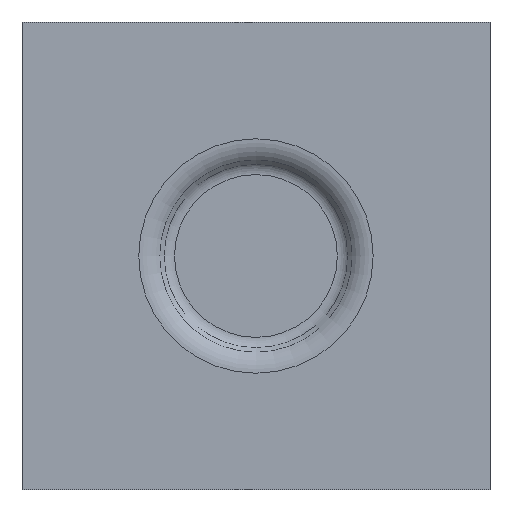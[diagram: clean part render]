
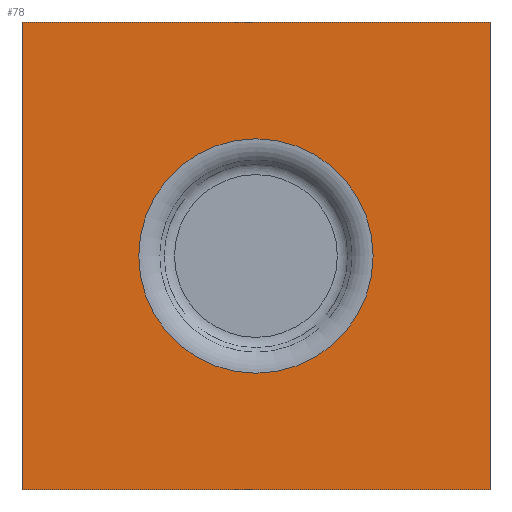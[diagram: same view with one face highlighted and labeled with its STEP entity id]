
A CAD part, top view. The second image highlights one B-rep face of the part: STEP entity #78.
In plain terms, the highlighted planar face has unit normal (0, 0, 1).
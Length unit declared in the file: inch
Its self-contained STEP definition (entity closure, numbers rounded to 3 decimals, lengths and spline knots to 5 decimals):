
#78=ADVANCED_FACE('',(#97,#98),#99,.F.);
#97=FACE_OUTER_BOUND('',#133,.T.);
#98=FACE_BOUND('',#134,.T.);
#99=PLANE('',#135);
#133=EDGE_LOOP('',(#184,#185,#186,#187));
#134=EDGE_LOOP('',(#188));
#135=AXIS2_PLACEMENT_3D('',#189,#190,#191);
#184=ORIENTED_EDGE('',*,*,#252,.T.);
#185=ORIENTED_EDGE('',*,*,#245,.T.);
#186=ORIENTED_EDGE('',*,*,#254,.T.);
#187=ORIENTED_EDGE('',*,*,#255,.F.);
#188=ORIENTED_EDGE('',*,*,#256,.T.);
#189=CARTESIAN_POINT('',(1.38055,4.18644,0.06299));
#190=DIRECTION('',(0.0,0.0,-1.0));
#191=DIRECTION('',(0.0,-1.0,0.0));
#245=EDGE_CURVE('',#267,#264,#268,.T.);
#252=EDGE_CURVE('',#279,#267,#280,.F.);
#254=EDGE_CURVE('',#264,#282,#283,.T.);
#255=EDGE_CURVE('',#279,#282,#284,.T.);
#256=EDGE_CURVE('',#285,#285,#286,.F.);
#264=VERTEX_POINT('',#300);
#267=VERTEX_POINT('',#304);
#268=LINE('',#305,#306);
#279=VERTEX_POINT('',#322);
#280=LINE('',#323,#324);
#282=VERTEX_POINT('',#327);
#283=LINE('',#328,#329);
#284=LINE('',#330,#331);
#285=VERTEX_POINT('',#332);
#286=CIRCLE('',#333,0.501);
#300=CARTESIAN_POINT('',(0.73719,2.20256,0.06299));
#304=CARTESIAN_POINT('',(-1.26324,2.20256,0.06299));
#305=CARTESIAN_POINT('',(0.99795,2.20256,0.06299));
#306=VECTOR('',#349,1.0);
#322=CARTESIAN_POINT('',(-1.26324,4.20174,0.06299));
#323=CARTESIAN_POINT('',(-1.26324,4.18644,0.06299));
#324=VECTOR('',#358,39.37008);
#327=CARTESIAN_POINT('',(0.73719,4.20174,0.06299));
#328=CARTESIAN_POINT('',(0.73719,4.18644,0.06299));
#329=VECTOR('',#360,39.37008);
#330=CARTESIAN_POINT('',(0.58319,4.20174,0.06299));
#331=VECTOR('',#361,39.37008);
#332=CARTESIAN_POINT('',(-0.76427,3.20218,0.06299));
#333=AXIS2_PLACEMENT_3D('',#362,#363,#364);
#349=DIRECTION('',(1.0,0.0,0.0));
#358=DIRECTION('',(0.,1.0,0.0));
#360=DIRECTION('',(0.,1.0,0.0));
#361=DIRECTION('',(1.0,0.,0.0));
#362=CARTESIAN_POINT('',(-0.26327,3.20218,0.06299));
#363=DIRECTION('',(0.0,0.0,1.0));
#364=DIRECTION('',(-1.0,0.,0.0));
